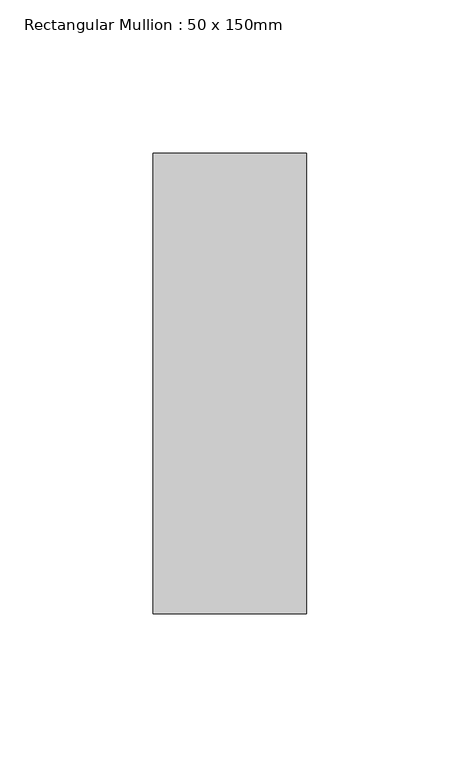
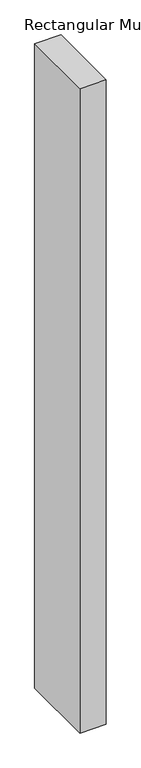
"""IFC4 building model written with IfcOpenShell, lengths in millimetres: member geometry, Rectangular Mullion : 50 x 150mm."""

from ifc_helpers import new_model, si_unit, frame, origin, place, context, project, spatial, polyline, outline, extrude, source, transform, mapped, element, save


def rectangular_mullion_50_x_150mm_1f222d30(model_context):
    return source(origin(), model_context, "Body", "SweptSolid", [
        extrude(outline(polyline([(25.0, 75.0), (25.0, -75.0), (-25.0, -75.0), (-25.0, 75.0), (25.0, 75.0)])), frame((0.0, 0.0, -1300.9787904), z_axis=(0.0, 0.0, 1.0), x_axis=(1.0, 0.0, 0.0)), (0.0, 0.0, 1.0), 1300.9787904),
    ])


if __name__ == "__main__":
    model = new_model("IFC4")
    model_context = context("Model", 3, world=origin())
    ifc_project = project(units=[si_unit("LENGTHUNIT", "METRE", prefix="MILLI")], contexts=[model_context])
    site = spatial("IfcSite", under=ifc_project)
    building = spatial("IfcBuilding", under=site)
    placement = place(None, origin())
    rectangular_mullion_50_x_150mm_shape = rectangular_mullion_50_x_150mm_1f222d30(model_context)
    element("IfcMember", 1, ObjectType="Rectangular Mullion : 50 x 150mm", at=placement, inside=building, context=model_context, shape_type="MappedRepresentation", body=[
        mapped(rectangular_mullion_50_x_150mm_shape, transform((0.0, 0.0, 0.0), x_axis=(1.0, 0.0, 0.0), y_axis=(0.0, 1.0, 0.0), z_axis=(0.0, 0.0, 1.0))),
    ])
    save(model, "model.ifc")
